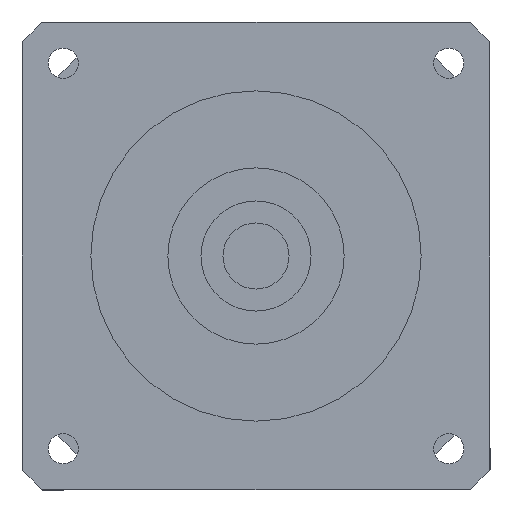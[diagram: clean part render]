
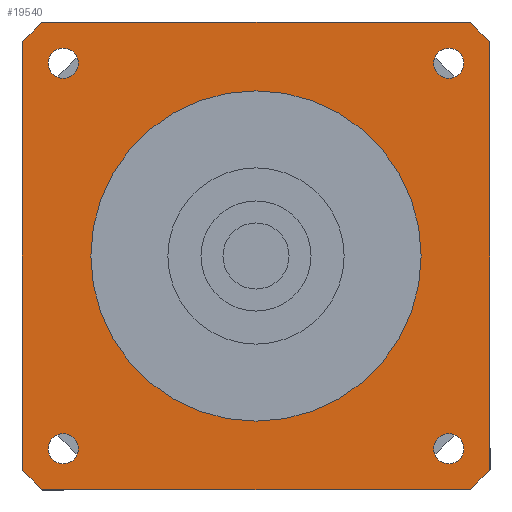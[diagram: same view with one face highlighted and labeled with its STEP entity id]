
A CAD part, left-side view. The second image highlights one B-rep face of the part: STEP entity #19540.
In plain terms, the highlighted planar face has unit normal (-1, 0, 0) as drawn and (0, 0, -1) by its records, which use the part's own axes.
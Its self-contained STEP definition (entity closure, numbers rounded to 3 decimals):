
#17700=CARTESIAN_POINT('',(-32.252,-35.002,-92.));
#17710=VERTEX_POINT('',#17700);
#17790=CARTESIAN_POINT('',(-37.752,-35.002,-92.));
#17800=VERTEX_POINT('',#17790);
#17830=CARTESIAN_POINT('',(-35.002,-35.002,-92.));
#17840=DIRECTION('',(0.,0.,-1.));
#17850=DIRECTION('',(0.,-1.,0.));
#17860=AXIS2_PLACEMENT_3D('',#17830,#17840,#17850);
#17870=CIRCLE('',#17860,2.75);
#17880=CARTESIAN_POINT('',(-35.002,-37.752,-92.));
#17890=VERTEX_POINT('',#17880);
#17900=EDGE_CURVE('',#17890,#17800,#17870,.T.);
#17920=EDGE_CURVE('',#17710,#17890,#17870,.T.);
#17970=CARTESIAN_POINT('',(-42.5,42.5,-92.));
#17980=DIRECTION('',(0.,0.,1.));
#17990=DIRECTION('',(-1.,0.,0.));
#18000=AXIS2_PLACEMENT_3D('',#17970,#17980,#17990);
#18010=PLANE('',#18000);
#18020=CARTESIAN_POINT('',(35.002,-35.002,-92.));
#18030=DIRECTION('',(0.,0.,-1.));
#18040=DIRECTION('',(1.,0.,0.));
#18050=AXIS2_PLACEMENT_3D('',#18020,#18030,#18040);
#18060=CIRCLE('',#18050,2.75);
#18070=CARTESIAN_POINT('',(37.752,-35.002,-92.));
#18080=VERTEX_POINT('',#18070);
#18090=CARTESIAN_POINT('',(35.002,-37.752,-92.));
#18100=VERTEX_POINT('',#18090);
#18110=EDGE_CURVE('',#18080,#18100,#18060,.T.);
#18120=ORIENTED_EDGE('',*,*,#18110,.F.);
#18130=CARTESIAN_POINT('',(35.002,-32.252,-92.));
#18140=VERTEX_POINT('',#18130);
#18150=EDGE_CURVE('',#18100,#18140,#18060,.T.);
#18160=ORIENTED_EDGE('',*,*,#18150,.F.);
#18170=EDGE_CURVE('',#18140,#18080,#18060,.T.);
#18180=ORIENTED_EDGE('',*,*,#18170,.F.);
#18190=EDGE_LOOP('',(#18180,#18160,#18120));
#18200=FACE_BOUND('',#18190,.T.);
#18210=CARTESIAN_POINT('',(35.002,35.002,-92.));
#18220=DIRECTION('',(0.,0.,-1.));
#18230=DIRECTION('',(0.,1.,0.));
#18240=AXIS2_PLACEMENT_3D('',#18210,#18220,#18230);
#18250=CIRCLE('',#18240,2.75);
#18260=CARTESIAN_POINT('',(35.002,37.752,-92.));
#18270=VERTEX_POINT('',#18260);
#18280=CARTESIAN_POINT('',(37.752,35.002,-92.));
#18290=VERTEX_POINT('',#18280);
#18300=EDGE_CURVE('',#18270,#18290,#18250,.T.);
#18310=ORIENTED_EDGE('',*,*,#18300,.F.);
#18320=CARTESIAN_POINT('',(32.252,35.002,-92.));
#18330=VERTEX_POINT('',#18320);
#18340=EDGE_CURVE('',#18290,#18330,#18250,.T.);
#18350=ORIENTED_EDGE('',*,*,#18340,.F.);
#18360=EDGE_CURVE('',#18330,#18270,#18250,.T.);
#18370=ORIENTED_EDGE('',*,*,#18360,.F.);
#18380=EDGE_LOOP('',(#18370,#18350,#18310));
#18390=FACE_BOUND('',#18380,.T.);
#18400=CARTESIAN_POINT('',(-35.002,35.002,-92.));
#18410=DIRECTION('',(0.,0.,-1.));
#18420=DIRECTION('',(-1.,0.,0.));
#18430=AXIS2_PLACEMENT_3D('',#18400,#18410,#18420);
#18440=CIRCLE('',#18430,2.75);
#18450=CARTESIAN_POINT('',(-37.752,35.002,-92.));
#18460=VERTEX_POINT('',#18450);
#18470=CARTESIAN_POINT('',(-35.002,37.752,-92.));
#18480=VERTEX_POINT('',#18470);
#18490=EDGE_CURVE('',#18460,#18480,#18440,.T.);
#18500=ORIENTED_EDGE('',*,*,#18490,.F.);
#18510=CARTESIAN_POINT('',(-35.002,32.252,-92.));
#18520=VERTEX_POINT('',#18510);
#18530=EDGE_CURVE('',#18480,#18520,#18440,.T.);
#18540=ORIENTED_EDGE('',*,*,#18530,.F.);
#18550=EDGE_CURVE('',#18520,#18460,#18440,.T.);
#18560=ORIENTED_EDGE('',*,*,#18550,.F.);
#18570=EDGE_LOOP('',(#18560,#18540,#18500));
#18580=FACE_BOUND('',#18570,.T.);
#18590=ORIENTED_EDGE('',*,*,#17900,.F.);
#18600=EDGE_CURVE('',#17800,#17710,#17870,.T.);
#18610=ORIENTED_EDGE('',*,*,#18600,.F.);
#18620=ORIENTED_EDGE('',*,*,#17920,.F.);
#18630=EDGE_LOOP('',(#18620,#18610,#18590));
#18640=FACE_BOUND('',#18630,.T.);
#18650=CARTESIAN_POINT('',(0.,0.,
-92.));
#18660=DIRECTION('',(0.,0.,1.));
#18670=DIRECTION('',(0.,-1.,0.));
#18680=AXIS2_PLACEMENT_3D('',#18650,#18660,#18670);
#18690=CIRCLE('',#18680,57.5);
#18700=CARTESIAN_POINT('',(-42.5,-38.73,-92.));
#18710=VERTEX_POINT('',#18700);
#18720=CARTESIAN_POINT('',(-38.73,-42.5,-92.));
#18730=VERTEX_POINT('',#18720);
#18740=EDGE_CURVE('',#18710,#18730,#18690,.T.);
#18750=ORIENTED_EDGE('',*,*,#18740,.F.);
#18760=CARTESIAN_POINT('',(-42.5,-42.5,-92.));
#18770=DIRECTION('',(1.,0.,0.));
#18780=VECTOR('',#18770,1000.);
#18790=LINE('',#18760,#18780);
#18800=CARTESIAN_POINT('',(38.73,-42.5,-92.));
#18810=VERTEX_POINT('',#18800);
#18820=EDGE_CURVE('',#18730,#18810,#18790,.T.);
#18830=ORIENTED_EDGE('',*,*,#18820,.F.);
#18840=CARTESIAN_POINT('',(0.,0.,
-92.));
#18850=DIRECTION('',(0.,0.,1.));
#18860=DIRECTION('',(0.,-1.,0.));
#18870=AXIS2_PLACEMENT_3D('',#18840,#18850,#18860);
#18880=CIRCLE('',#18870,57.5);
#18890=CARTESIAN_POINT('',(42.5,-38.73,-92.));
#18900=VERTEX_POINT('',#18890);
#18910=EDGE_CURVE('',#18810,#18900,#18880,.T.);
#18920=ORIENTED_EDGE('',*,*,#18910,.F.);
#18930=CARTESIAN_POINT('',(42.5,-42.5,-92.));
#18940=DIRECTION('',(0.,1.,0.));
#18950=VECTOR('',#18940,1000.);
#18960=LINE('',#18930,#18950);
#18970=CARTESIAN_POINT('',(42.5,38.73,-92.));
#18980=VERTEX_POINT('',#18970);
#18990=EDGE_CURVE('',#18900,#18980,#18960,.T.);
#19000=ORIENTED_EDGE('',*,*,#18990,.F.);
#19010=CARTESIAN_POINT('',(0.,0.,
-92.));
#19020=DIRECTION('',(0.,0.,1.));
#19030=DIRECTION('',(0.,-1.,0.));
#19040=AXIS2_PLACEMENT_3D('',#19010,#19020,#19030);
#19050=CIRCLE('',#19040,57.5);
#19060=CARTESIAN_POINT('',(38.73,42.5,-92.));
#19070=VERTEX_POINT('',#19060);
#19080=EDGE_CURVE('',#18980,#19070,#19050,.T.);
#19090=ORIENTED_EDGE('',*,*,#19080,.F.);
#19100=CARTESIAN_POINT('',(42.5,42.5,-92.));
#19110=DIRECTION('',(-1.,0.,0.));
#19120=VECTOR('',#19110,1000.);
#19130=LINE('',#19100,#19120);
#19140=CARTESIAN_POINT('',(-38.73,42.5,-92.));
#19150=VERTEX_POINT('',#19140);
#19160=EDGE_CURVE('',#19070,#19150,#19130,.T.);
#19170=ORIENTED_EDGE('',*,*,#19160,.F.);
#19180=CARTESIAN_POINT('',(0.,0.,
-92.));
#19190=DIRECTION('',(0.,0.,1.));
#19200=DIRECTION('',(0.,-1.,0.));
#19210=AXIS2_PLACEMENT_3D('',#19180,#19190,#19200);
#19220=CIRCLE('',#19210,57.5);
#19230=CARTESIAN_POINT('',(-42.5,38.73,-92.));
#19240=VERTEX_POINT('',#19230);
#19250=EDGE_CURVE('',#19150,#19240,#19220,.T.);
#19260=ORIENTED_EDGE('',*,*,#19250,.F.);
#19270=CARTESIAN_POINT('',(-42.5,42.5,-92.));
#19280=DIRECTION('',(0.,-1.,0.));
#19290=VECTOR('',#19280,1000.);
#19300=LINE('',#19270,#19290);
#19310=EDGE_CURVE('',#19240,#18710,#19300,.T.);
#19320=ORIENTED_EDGE('',*,*,#19310,.F.);
#19330=EDGE_LOOP('',(#19320,#19260,#19170,#19090,#19000,#18920,#18830,
#18750));
#19340=FACE_OUTER_BOUND('',#19330,.T.);
#19350=CARTESIAN_POINT('',(0.,0.,
-92.));
#19360=DIRECTION('',(0.,0.,1.));
#19370=DIRECTION('',(0.,-1.,0.));
#19380=AXIS2_PLACEMENT_3D('',#19350,#19360,#19370);
#19390=CIRCLE('',#19380,30.);
#19400=CARTESIAN_POINT('',(30.,0.,-92.));
#19410=VERTEX_POINT('',#19400);
#19420=CARTESIAN_POINT('',(-30.,0.,-92.));
#19430=VERTEX_POINT('',#19420);
#19440=EDGE_CURVE('',#19410,#19430,#19390,.T.);
#19450=ORIENTED_EDGE('',*,*,#19440,.T.);
#19460=CARTESIAN_POINT('',(0.,-30.,-92.));
#19470=VERTEX_POINT('',#19460);
#19480=EDGE_CURVE('',#19470,#19410,#19390,.T.);
#19490=ORIENTED_EDGE('',*,*,#19480,.T.);
#19500=EDGE_CURVE('',#19430,#19470,#19390,.T.);
#19510=ORIENTED_EDGE('',*,*,#19500,.T.);
#19520=EDGE_LOOP('',(#19510,#19490,#19450));
#19530=FACE_BOUND('',#19520,.T.);
#19540=ADVANCED_FACE('',(#18200,#18390,#18580,#18640,#19340,#19530),
#18010,.F.);
